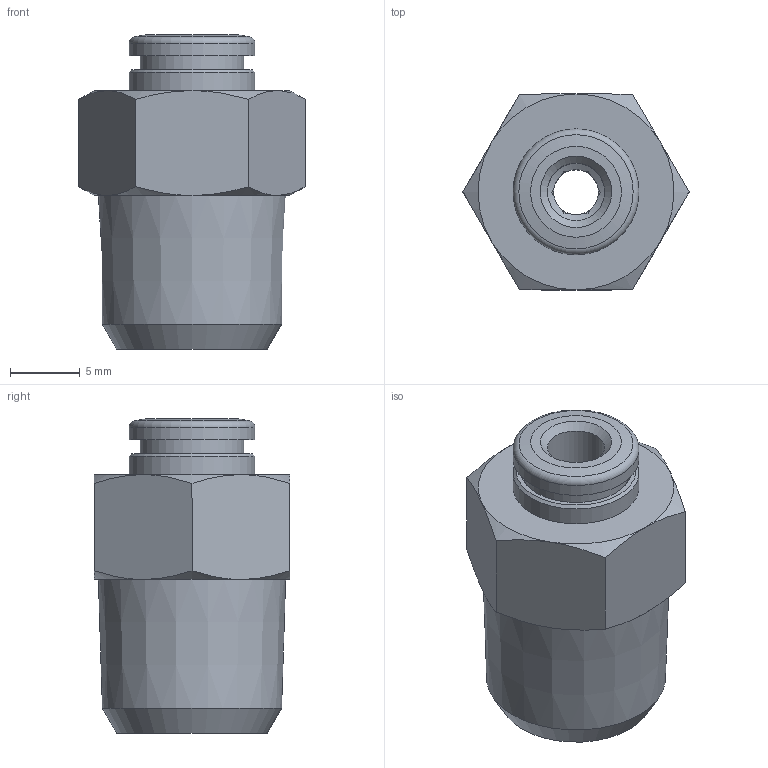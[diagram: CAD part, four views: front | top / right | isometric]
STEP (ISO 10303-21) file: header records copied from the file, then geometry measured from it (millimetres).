
FILE_DESCRIPTION(/* description */ (''),/* implementation_level */ '2;1');
FILE_NAME(/* name */ '200153-ES_STX01K_4_R14_28.04.16',/* time_stamp */ '2016-04-28T12:10:21+02:00',/* author */ (''),/* organization */ (''),/* preprocessor_version */ 'ST-DEVELOPER v14',/* originating_system */ 'HiCAD 2013 1802.4 Build 509',/* authorisation */ '');
FILE_SCHEMA (('AUTOMOTIVE_DESIGN { 1 0 10303 214 1 1 1 1 }'));
Length unit declared in the file: millimetre
Products named in the file (3): Root; R200153-ES-N; DR4-1_NEU
Assembly tree (2 placements, depth 2):
  Root
    R200153-ES-N
    DR4-1_NEU
Bounding box: 16.17 x 14 x 22.5 mm (x, y, z)
Volume: 2526.4 mm3; surface area: 1813.1 mm2
Topology: 2 solids, 2 shells, 65 faces, 147 edges, 91 vertices
Faces by surface type: plane 32, cone 23, cylinder 9, torus 1
Full cylindrical faces by diameter (mm): 3.2 x1, 4.1 x2, 6.4 x1, 7.3 x1, 7.4 x1, 7.6 x1, 9 x2
Entity records: 3060 total; most frequent: DIRECTION 348, CARTESIAN_POINT 280, PRESENTATION_STYLE_ASSIGNMENT 256, OVER_RIDING_STYLED_ITEM 254, COLOUR_RGB 248, DRAUGHTING_PRE_DEFINED_CURVE_FONT 246, CURVE_STYLE 246, ORIENTED_EDGE 246
